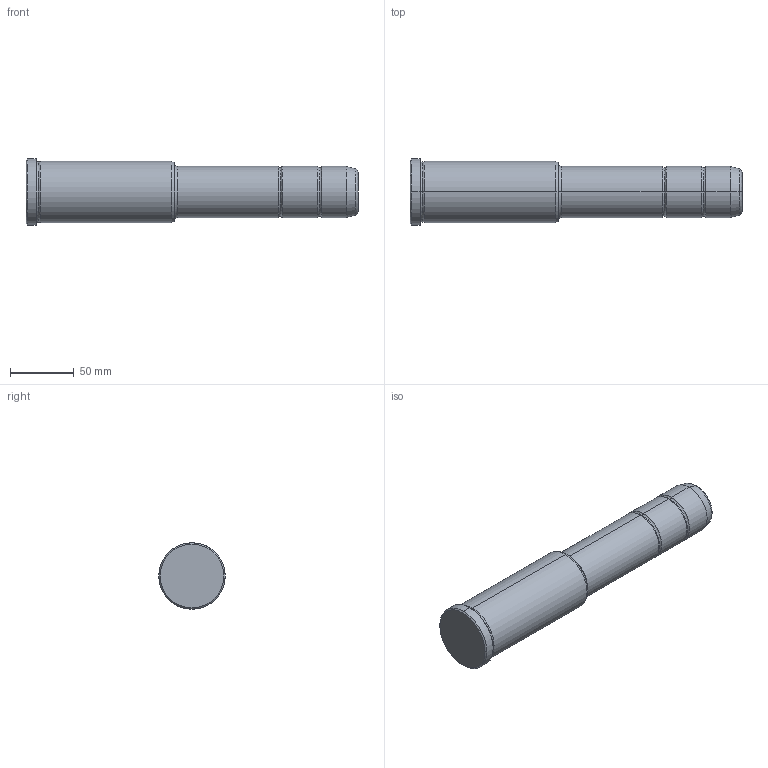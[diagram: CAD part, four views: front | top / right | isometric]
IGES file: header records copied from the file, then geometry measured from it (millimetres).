
Start section: START RECORD GO HERE.
Global section: file name: 351-40X116X260.igs; native system: DASSAULT SYSTEMES CATIA V5 R20 - www.3ds.com; preprocessor: CATIA Version 5 Release 20 ; author: Utente; organization: NB04-ASUS; date: 20211007.151333; units: millimetre
Bounding box: 260 x 52 x 52 mm (x, y, z)
Surface area: 39383.8 mm2 (no closed solid volume)
Topology: 0 solids, 0 shells, 36 faces, 204 edges, 204 vertices
Faces by surface type: revolution 32, plane 4
